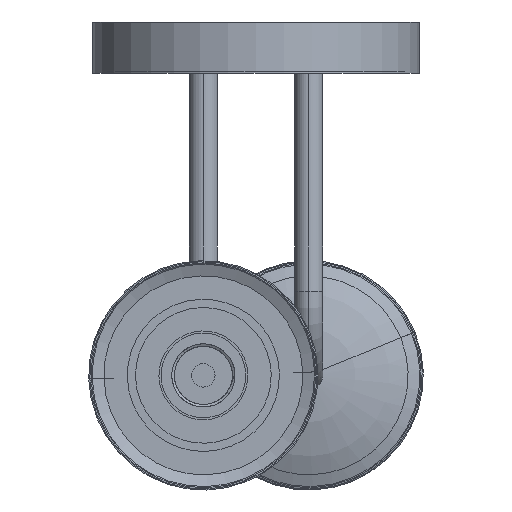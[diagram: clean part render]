
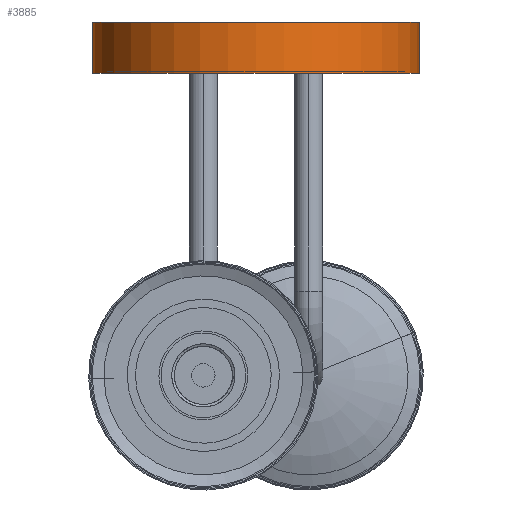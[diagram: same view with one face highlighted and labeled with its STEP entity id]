
A CAD part, front view. The second image highlights one B-rep face of the part: STEP entity #3885.
In plain terms, the highlighted cylindrical face has radius 70 mm (diameter 140 mm), a partial arc.
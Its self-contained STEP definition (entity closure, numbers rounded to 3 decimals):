
#15 = CARTESIAN_POINT ( 'NONE',  ( 70., 0., 0. ) ) ;
#127 = ORIENTED_EDGE ( 'NONE', *, *, #3866, .T. ) ;
#145 = DIRECTION ( 'NONE',  ( 0., 0., -1. ) ) ;
#160 = AXIS2_PLACEMENT_3D ( 'NONE', #1402, #3750, #1038 ) ;
#217 = VERTEX_POINT ( 'NONE', #3489 ) ;
#584 = CARTESIAN_POINT ( 'NONE',  ( 70., 0., 22. ) ) ;
#663 = ORIENTED_EDGE ( 'NONE', *, *, #1986, .F. ) ;
#741 = VERTEX_POINT ( 'NONE', #584 ) ;
#926 = VECTOR ( 'NONE', #1371, 1000. ) ;
#1038 = DIRECTION ( 'NONE',  ( -1., 0., 0. ) ) ;
#1178 = LINE ( 'NONE', #1844, #3512 ) ;
#1208 = CIRCLE ( 'NONE', #2702, 70. ) ;
#1371 = DIRECTION ( 'NONE',  ( 0., 0., -1. ) ) ;
#1402 = CARTESIAN_POINT ( 'NONE',  ( 0., 0., 22. ) ) ;
#1688 = CARTESIAN_POINT ( 'NONE',  ( 0., 0., 0. ) ) ;
#1783 = AXIS2_PLACEMENT_3D ( 'NONE', #1688, #1965, #2746 ) ;
#1844 = CARTESIAN_POINT ( 'NONE',  ( 70., 0., 0. ) ) ;
#1960 = EDGE_LOOP ( 'NONE', ( #663, #127, #2581, #2355 ) ) ;
#1965 = DIRECTION ( 'NONE',  ( 0., 0., -1. ) ) ;
#1986 = EDGE_CURVE ( 'NONE', #741, #3683, #1178, .T. ) ;
#2355 = ORIENTED_EDGE ( 'NONE', *, *, #3163, .F. ) ;
#2476 = DIRECTION ( 'NONE',  ( 0., 0., -1. ) ) ;
#2581 = ORIENTED_EDGE ( 'NONE', *, *, #2762, .T. ) ;
#2702 = AXIS2_PLACEMENT_3D ( 'NONE', #4162, #2476, #3846 ) ;
#2746 = DIRECTION ( 'NONE',  ( -1., 0., 0. ) ) ;
#2762 = EDGE_CURVE ( 'NONE', #217, #4197, #3751, .T. ) ;
#3160 = CIRCLE ( 'NONE', #160, 70. ) ;
#3163 = EDGE_CURVE ( 'NONE', #3683, #4197, #1208, .T. ) ;
#3180 = CARTESIAN_POINT ( 'NONE',  ( -70., 0., 0. ) ) ;
#3417 = CYLINDRICAL_SURFACE ( 'NONE', #1783, 70. ) ;
#3418 = CARTESIAN_POINT ( 'NONE',  ( -70., 0., 0. ) ) ;
#3489 = CARTESIAN_POINT ( 'NONE',  ( -70., 0., 22. ) ) ;
#3512 = VECTOR ( 'NONE', #145, 1000. ) ;
#3683 = VERTEX_POINT ( 'NONE', #15 ) ;
#3750 = DIRECTION ( 'NONE',  ( 0., 0., -1. ) ) ;
#3751 = LINE ( 'NONE', #3418, #926 ) ;
#3846 = DIRECTION ( 'NONE',  ( -1., 0., 0. ) ) ;
#3866 = EDGE_CURVE ( 'NONE', #741, #217, #3160, .T. ) ;
#3885 = ADVANCED_FACE ( 'NONE', ( #4056 ), #3417, .T. ) ;
#4056 = FACE_OUTER_BOUND ( 'NONE', #1960, .T. ) ;
#4162 = CARTESIAN_POINT ( 'NONE',  ( 0., 0., 0. ) ) ;
#4197 = VERTEX_POINT ( 'NONE', #3180 ) ;
